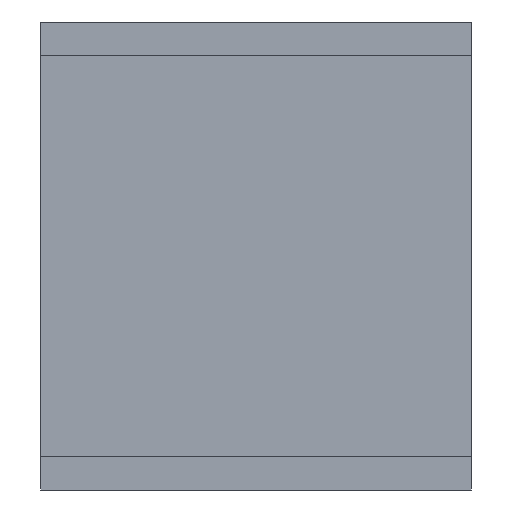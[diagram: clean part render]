
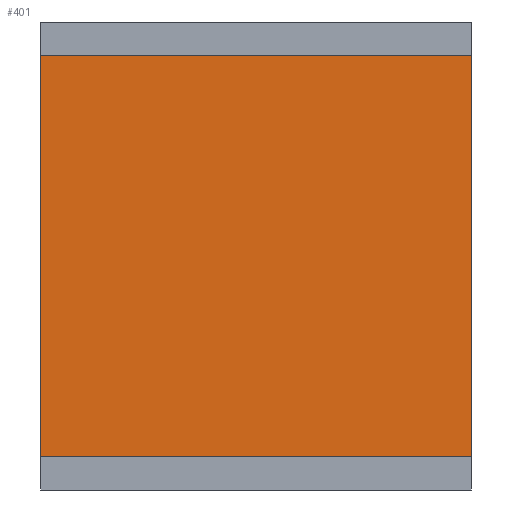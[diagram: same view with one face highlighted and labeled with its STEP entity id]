
A CAD part, front view. The second image highlights one B-rep face of the part: STEP entity #401.
In plain terms, the highlighted planar face has unit normal (0, -1, 0).
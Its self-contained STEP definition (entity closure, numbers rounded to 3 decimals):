
#32 = VECTOR ( 'NONE', #94, 1000. ) ;
#45 = CARTESIAN_POINT ( 'NONE',  ( 15., 14., -14. ) ) ;
#48 = EDGE_CURVE ( 'NONE', #440, #526, #183, .T. ) ;
#79 = VECTOR ( 'NONE', #153, 1000. ) ;
#94 = DIRECTION ( 'NONE',  ( -1., 0., 0. ) ) ;
#106 = CARTESIAN_POINT ( 'NONE',  ( 15., 14., 14. ) ) ;
#121 = LINE ( 'NONE', #407, #323 ) ;
#153 = DIRECTION ( 'NONE',  ( -1., 0., 0. ) ) ;
#161 = VERTEX_POINT ( 'NONE', #324 ) ;
#163 = EDGE_LOOP ( 'NONE', ( #255, #199, #185, #419 ) ) ;
#167 = VERTEX_POINT ( 'NONE', #45 ) ;
#172 = CARTESIAN_POINT ( 'NONE',  ( 15., 14., 16.3 ) ) ;
#177 = DIRECTION ( 'NONE',  ( 0., 0., 1. ) ) ;
#183 = LINE ( 'NONE', #439, #79 ) ;
#185 = ORIENTED_EDGE ( 'NONE', *, *, #500, .F. ) ;
#199 = ORIENTED_EDGE ( 'NONE', *, *, #527, .F. ) ;
#202 = EDGE_CURVE ( 'NONE', #526, #161, #121, .T. ) ;
#221 = FACE_OUTER_BOUND ( 'NONE', #163, .T. ) ;
#231 = CARTESIAN_POINT ( 'NONE',  ( 15., 14., 16.3 ) ) ;
#255 = ORIENTED_EDGE ( 'NONE', *, *, #202, .T. ) ;
#303 = DIRECTION ( 'NONE',  ( 0., 0., -1. ) ) ;
#323 = VECTOR ( 'NONE', #366, 1000. ) ;
#324 = CARTESIAN_POINT ( 'NONE',  ( -15., 14., -14. ) ) ;
#329 = DIRECTION ( 'NONE',  ( 0., 1., 0. ) ) ;
#350 = VECTOR ( 'NONE', #303, 1000. ) ;
#352 = LINE ( 'NONE', #231, #350 ) ;
#355 = CARTESIAN_POINT ( 'NONE',  ( -15., 14., 14. ) ) ;
#366 = DIRECTION ( 'NONE',  ( 0., 0., -1. ) ) ;
#368 = AXIS2_PLACEMENT_3D ( 'NONE', #172, #329, #177 ) ;
#387 = LINE ( 'NONE', #516, #32 ) ;
#401 = ADVANCED_FACE ( 'NONE', ( #221 ), #540, .F. ) ;
#407 = CARTESIAN_POINT ( 'NONE',  ( -15., 14., 16.3 ) ) ;
#419 = ORIENTED_EDGE ( 'NONE', *, *, #48, .T. ) ;
#439 = CARTESIAN_POINT ( 'NONE',  ( 15., 14., 14. ) ) ;
#440 = VERTEX_POINT ( 'NONE', #106 ) ;
#500 = EDGE_CURVE ( 'NONE', #440, #167, #352, .T. ) ;
#516 = CARTESIAN_POINT ( 'NONE',  ( 15., 14., -14. ) ) ;
#526 = VERTEX_POINT ( 'NONE', #355 ) ;
#527 = EDGE_CURVE ( 'NONE', #167, #161, #387, .T. ) ;
#540 = PLANE ( 'NONE',  #368 ) ;
